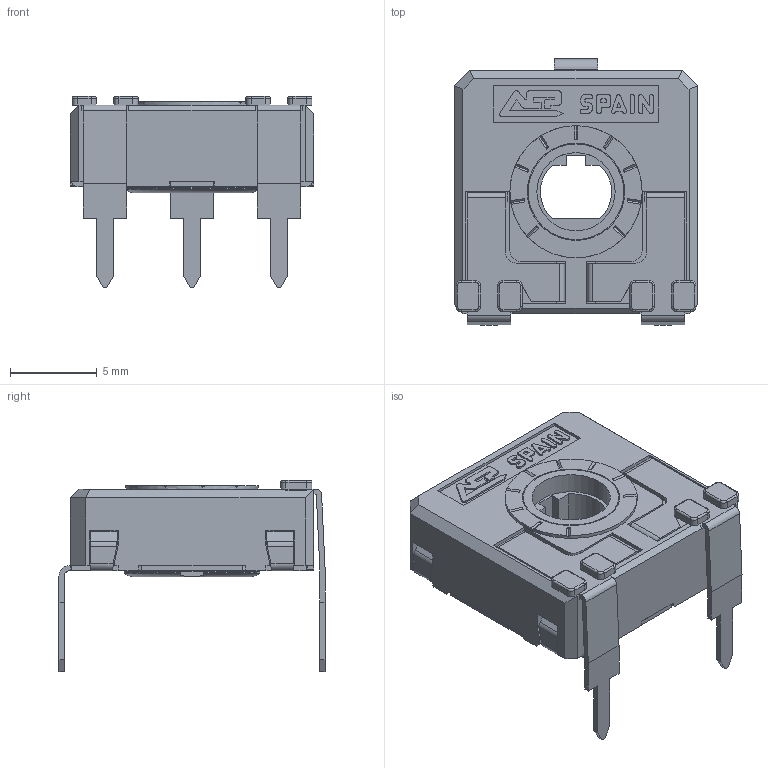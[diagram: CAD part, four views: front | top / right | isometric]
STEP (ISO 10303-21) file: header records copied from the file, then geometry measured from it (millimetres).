
FILE_DESCRIPTION(/* description */ (''),/* implementation_level */ '2;1');
FILE_NAME(/* name */ 'C:\Users\CEM\Desktop\ENVIAR\TRANSICION 3D CATALOGOS\RS14TV15.stp',/* time_stamp */ '2025-12-10T11:29:09+01:00',/* author */ ('CEM'),/* organization */ (''),/* preprocessor_version */ 'ST-DEVELOPER v16.13',/* originating_system */ 'Autodesk Inventor 2018',/* authorisation */ '');
FILE_SCHEMA (('AUTOMOTIVE_DESIGN { 1 0 10303 214 3 1 1 }'));
Length unit declared in the file: millimetre
Products named in the file (1): CARCASA CA14 PGA
Bounding box: 14 x 15.3 x 11 mm (x, y, z)
Volume: 524.1 mm3; surface area: 1472.1 mm2
Topology: 1 solids, 1 shells, 677 faces, 1906 edges, 1226 vertices
Faces by surface type: plane 501, cylinder 139, torus 23, bspline 8, cone 6
Full cylindrical faces by diameter (mm): 4.5 x1, 5.5 x1, 5.6 x1, 5.752 x1, 6.8 x1, 7.6 x1
Entity records: 21927 total; most frequent: CARTESIAN_POINT 4004, ORIENTED_EDGE 3784, DIRECTION 3568, EDGE_CURVE 1892, LINE 1500, VECTOR 1500, VERTEX_POINT 1222, AXIS2_PLACEMENT_3D 1034
